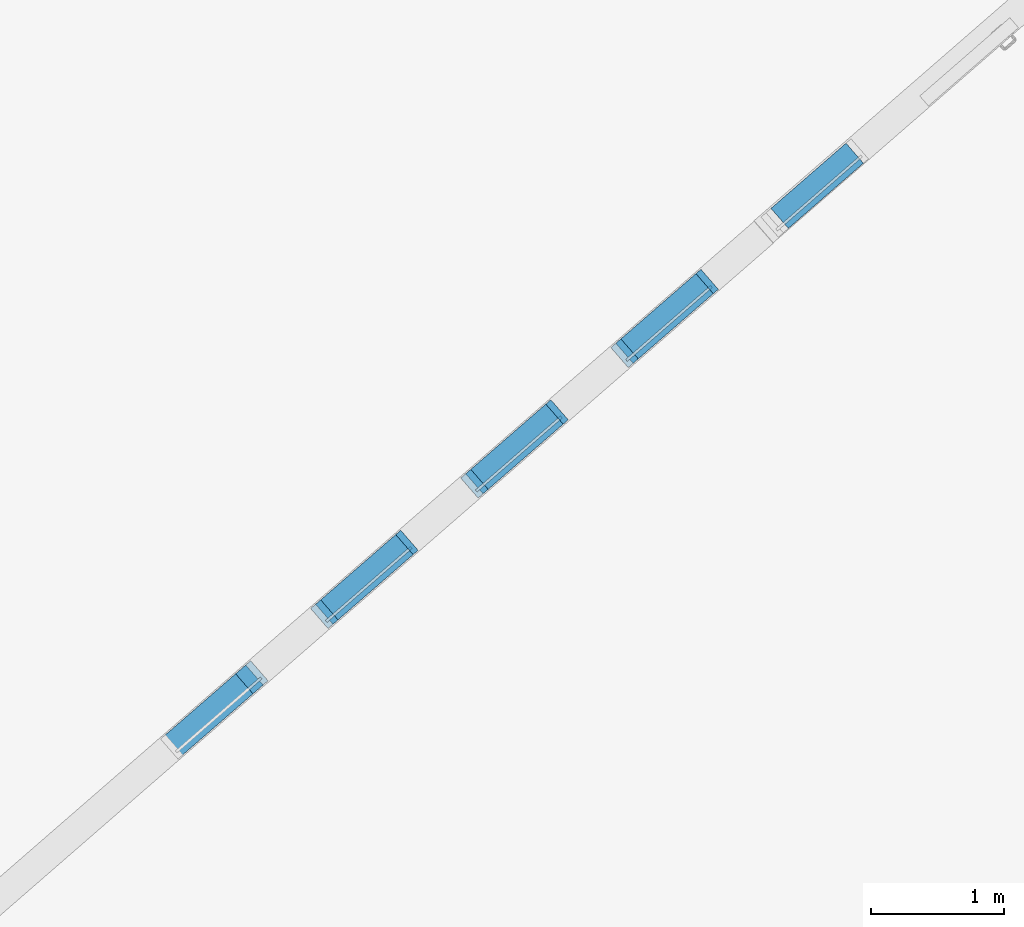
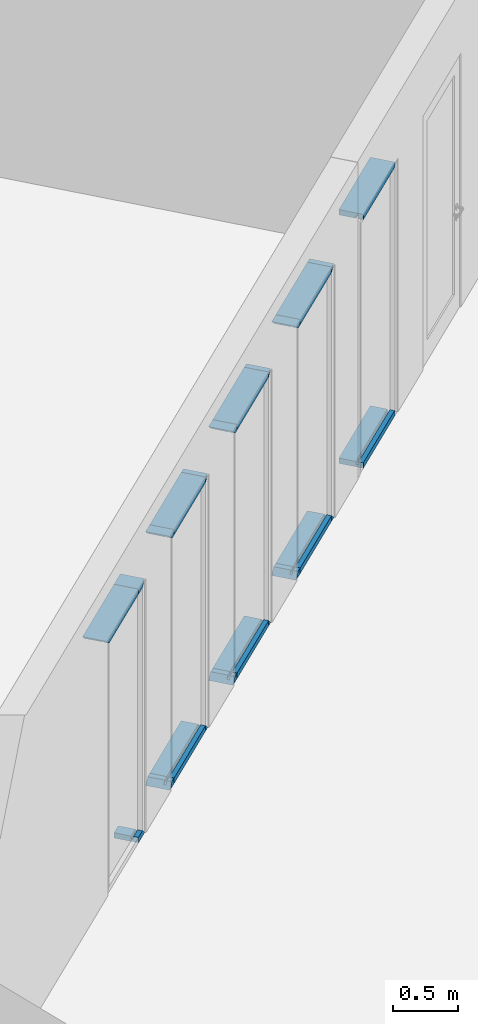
# One storey, part 14 of 124: 23 discrete accessories, 5 elements without a shape of their own.
"""IFC2X3 building model written with IfcOpenShell, lengths in millimetres."""

from ifc_helpers import new_model, entity, si_unit, converted_unit, derived_unit, money_unit, direction, frame, origin_with_axes, place, context, subcontext, project, spatial, polyline, outline, extrude, clip, halfspace, material, material_list, type_object, element, aggregate, save


model = new_model("IFC2X3")

# Units and contexts
model_context = context("Model", 3, precision=1e-05, world=origin_with_axes(), true_north=direction((0.0, 1.0)))
body_context = subcontext(model_context, "Body", "Model", "MODEL_VIEW")
ifc_project = project(units=[si_unit("LENGTHUNIT", "METRE", prefix="MILLI"), si_unit("AREAUNIT", "SQUARE_METRE"), si_unit("VOLUMEUNIT", "CUBIC_METRE"), converted_unit("PLANEANGLEUNIT", "DEGREE", entity("IfcPlaneAngleMeasure", 0.0174532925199), si_unit("PLANEANGLEUNIT", "RADIAN"), dimensions=[0, 0, 0, 0, 0, 0, 0]), si_unit("SOLIDANGLEUNIT", "STERADIAN"), money_unit("EUR"), converted_unit("TIMEUNIT", "Year", entity("IfcTimeMeasure", 31556926.0), si_unit("TIMEUNIT", "SECOND"), dimensions=[0, 0, 1, 0, 0, 0, 0]), si_unit("MASSUNIT", "GRAM", prefix="KILO"), si_unit("THERMODYNAMICTEMPERATUREUNIT", "DEGREE_CELSIUS"), si_unit("LUMINOUSINTENSITYUNIT", "LUMEN"), si_unit("ENERGYUNIT", "JOULE", prefix="MEGA"), derived_unit("THERMALCONDUCTANCEUNIT", [(si_unit("POWERUNIT", "WATT"), 1), (si_unit("LENGTHUNIT", "METRE"), -1), (si_unit("THERMODYNAMICTEMPERATUREUNIT", "KELVIN"), -1)]), derived_unit("SPECIFICHEATCAPACITYUNIT", [(si_unit("ENERGYUNIT", "JOULE"), 1), (si_unit("MASSUNIT", "GRAM", prefix="KILO"), -1), (si_unit("THERMODYNAMICTEMPERATUREUNIT", "KELVIN"), -1)]), derived_unit("MASSDENSITYUNIT", [(si_unit("MASSUNIT", "GRAM", prefix="KILO"), 1), (si_unit("VOLUMEUNIT", "CUBIC_METRE"), -1)])], contexts=[model_context])

# Site, building, storey
site_placement = place(None, origin_with_axes())
site = spatial("IfcSite", under=ifc_project, at=site_placement, Name="Site", CompositionType="ELEMENT")
building_placement = place(site_placement, origin_with_axes())
building = spatial("IfcBuilding", under=site, at=building_placement, Name="Building", CompositionType="ELEMENT")
storey_placement = place(building_placement, frame((0.0, 0.0, -1615.0), z_axis=(0.0, 0.0, 1.0), x_axis=(1.0, 0.0, 0.0)))
storey = spatial("IfcBuildingStorey", under=building, at=storey_placement, Name="0  korrus", CompositionType="ELEMENT", Elevation=-1615.0)

# Curtain wall, discrete accessories
curtain_wall_type = type_object("IfcCurtainWallType", Name="KS-07", PredefinedType="NOTDEFINED")
curtain_wall_1_placement = place(storey_placement, frame((145489.197566, 87628.0086428, -0.000131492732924), z_axis=(0.0, 0.0, 1.0), x_axis=(1.0, 0.0, 0.0)))
curtain_wall_1 = element("IfcCurtainWall", 1, at=curtain_wall_1_placement, inside=storey, type_object=curtain_wall_type, Name="Klaas-sein")
ifc_material = material(Name="Aluminium MUST")
ifc_material_list = material_list([ifc_material, ifc_material, ifc_material])
discrete_accessory_type = type_object("IfcDiscreteAccessoryType", Name="50 x 200")
discrete_accessory_1_placement = place(curtain_wall_1_placement, frame((150.941908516, 131.211799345, 2400.00001788), z_axis=(-0.754709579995, -0.656059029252, 0.0), x_axis=(0.0, 0.0, -1.0)))
discrete_accessory_1 = element("IfcDiscreteAccessory", 2, at=discrete_accessory_1_placement, type_object=discrete_accessory_type, material=ifc_material_list, Name="KS-07 profiil", context=body_context, shape_type="Clipping", body=[
    clip(extrude(outline(polyline([(9.99999999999, 25.0), (-9.99999999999, 25.0), (-10.0, 0.0), (10.0, 0.0), (9.99999999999, 25.0)])), frame((0.0, 0.0, 0.0), z_axis=(0.0, 0.0, 1.0), x_axis=(0.0, -1.0, 0.0)), (0.0, 0.0, 1.0), 750.0), halfspace(frame((375.0, 0.0, 375.0), z_axis=(-0.707106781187, 0.0, -0.707106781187), x_axis=(0.0, 1.0, 0.0)), True)),
    clip(extrude(outline(polyline([(150.0, 50.0), (10.0, 50.0), (10.0, 0.0), (150.0, 0.0), (150.0, 50.0)])), frame((0.0, 0.0, 0.0), z_axis=(0.0, 0.0, 1.0), x_axis=(0.0, -1.0, 0.0)), (0.0, 0.0, 1.0), 750.0), halfspace(frame((375.0, 0.0, 375.0), z_axis=(-0.707106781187, 0.0, -0.707106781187), x_axis=(0.0, 1.0, 0.0)), True)),
    clip(extrude(outline(polyline([(-50.0, 0.0), (-10.0, 0.0), (-10.0, 50.0), (-50.0, 50.0), (-50.0, 0.0)])), frame((0.0, 0.0, 0.0), z_axis=(0.0, 0.0, 1.0), x_axis=(0.0, -1.0, 0.0)), (0.0, 0.0, 1.0), 750.0), halfspace(frame((375.0, 0.0, 375.0), z_axis=(-0.707106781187, 0.0, -0.707106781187), x_axis=(0.0, 1.0, 0.0)), True)),
])
discrete_accessory_2_placement = place(curtain_wall_1_placement, frame((150.941908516, 131.211799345, 0.0), z_axis=(0.754709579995, 0.656059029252, 0.0), x_axis=(0.0, 0.0, 1.0)))
discrete_accessory_2 = element("IfcDiscreteAccessory", 3, at=discrete_accessory_2_placement, type_object=discrete_accessory_type, material=ifc_material_list, Name="KS-07 profiil", context=body_context, shape_type="Clipping", body=[
    clip(extrude(outline(polyline([(-10.0, -25.0), (9.99999999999, -25.0), (9.99999999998, 0.0), (-10.0, 0.0), (-10.0, -25.0)])), frame((0.0, 0.0, 0.0), z_axis=(0.0, 0.0, 1.0), x_axis=(0.0, 1.0, 0.0)), (0.0, 0.0, 1.0), 150.000029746), halfspace(frame((75.000014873, 0.0, 75.000014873), z_axis=(-0.707106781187, 0.0, -0.707106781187), x_axis=(0.0, 1.0, 0.0)), True)),
    clip(extrude(outline(polyline([(-150.0, -50.0), (-10.0, -50.0), (-10.0, 0.0), (-150.0, 0.0), (-150.0, -50.0)])), frame((0.0, 0.0, 0.0), z_axis=(0.0, 0.0, 1.0), x_axis=(0.0, 1.0, 0.0)), (0.0, 0.0, 1.0), 150.000029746), halfspace(frame((75.000014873, 0.0, 75.000014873), z_axis=(-0.707106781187, 0.0, -0.707106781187), x_axis=(0.0, 1.0, 0.0)), True)),
    clip(extrude(outline(polyline([(50.0, 0.0), (9.99999999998, 0.0), (9.99999999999, -50.0), (50.0, -50.0), (50.0, 0.0)])), frame((0.0, 0.0, 0.0), z_axis=(0.0, 0.0, 1.0), x_axis=(0.0, 1.0, 0.0)), (0.0, 0.0, 1.0), 150.000029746), halfspace(frame((75.000014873, 0.0, 75.000014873), z_axis=(-0.707106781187, 0.0, -0.707106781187), x_axis=(0.0, 1.0, 0.0)), True)),
])
discrete_accessory_3_placement = place(curtain_wall_1_placement, frame((264.148367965, 229.620673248, 2400.00001788), z_axis=(-0.754709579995, -0.656059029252, 0.0), x_axis=(0.0, 0.0, -1.0)))
discrete_accessory_3 = element("IfcDiscreteAccessory", 4, at=discrete_accessory_3_placement, type_object=discrete_accessory_type, material=ifc_material_list, Name="KS-07 profiil", context=body_context, shape_type="Clipping", body=[
    clip(extrude(outline(polyline([(9.99999999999, 25.0), (-10.0, 25.0), (-10.0, 0.0), (9.99999999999, 0.0), (9.99999999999, 25.0)])), frame((0.0, 0.0, 0.0), z_axis=(0.0, 0.0, 1.0), x_axis=(0.0, -1.0, 0.0)), (0.0, 0.0, 1.0), 150.000029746), halfspace(frame((0.0, 0.0, 0.0), z_axis=(-0.707106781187, 0.0, 0.707106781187), x_axis=(0.0, -1.0, 0.0)), True)),
    clip(extrude(outline(polyline([(150.0, 50.0), (9.99999999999, 50.0), (9.99999999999, 0.0), (150.0, 0.0), (150.0, 50.0)])), frame((0.0, 0.0, 0.0), z_axis=(0.0, 0.0, 1.0), x_axis=(0.0, -1.0, 0.0)), (0.0, 0.0, 1.0), 150.000029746), halfspace(frame((0.0, 0.0, 0.0), z_axis=(-0.707106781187, 0.0, 0.707106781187), x_axis=(0.0, -1.0, 0.0)), True)),
    clip(extrude(outline(polyline([(-50.0, 0.0), (-10.0, 0.0), (-10.0, 50.0), (-50.0, 50.0), (-50.0, 0.0)])), frame((0.0, 0.0, 0.0), z_axis=(0.0, 0.0, 1.0), x_axis=(0.0, -1.0, 0.0)), (0.0, 0.0, 1.0), 150.000029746), halfspace(frame((0.0, 0.0, 0.0), z_axis=(-0.707106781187, 0.0, 0.707106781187), x_axis=(0.0, -1.0, 0.0)), True)),
])
aggregate(curtain_wall_1, [discrete_accessory_1, discrete_accessory_2, discrete_accessory_3])

curtain_wall_2_placement = place(storey_placement, frame((146555.224842, 88554.6920151, -6.3855272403e-05), z_axis=(0.0, 0.0, 1.0), x_axis=(1.0, 0.0, 0.0)))
curtain_wall_2 = element("IfcCurtainWall", 5, at=curtain_wall_2_placement, inside=storey, type_object=curtain_wall_type, Name="Klaas-sein")
discrete_accessory_4_placement = place(curtain_wall_2_placement, frame((330.185462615, 287.025843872, 2400.00001788), z_axis=(-0.754709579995, -0.656059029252, 0.0), x_axis=(0.0, 0.0, -1.0)))
discrete_accessory_4 = element("IfcDiscreteAccessory", 6, at=discrete_accessory_4_placement, type_object=discrete_accessory_type, material=ifc_material_list, Name="KS-07 profiil", context=body_context, shape_type="Clipping", body=[
    clip(extrude(outline(polyline([(10.0, 25.0), (-10.0, 25.0), (-10.0, 0.0), (10.0, 0.0), (10.0, 25.0)])), frame((0.0, 0.0, 0.0), z_axis=(0.0, 0.0, 1.0), x_axis=(0.0, -1.0, 0.0)), (0.0, 0.0, 1.0), 50.0000298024), halfspace(frame((0.0, 0.0, 0.0), z_axis=(-0.707106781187, 0.0, 0.707106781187), x_axis=(0.0, -1.0, 0.0)), True)),
    clip(extrude(outline(polyline([(150.0, 50.0), (10.0, 50.0), (10.0, 0.0), (150.0, 0.0), (150.0, 50.0)])), frame((0.0, 0.0, 0.0), z_axis=(0.0, 0.0, 1.0), x_axis=(0.0, -1.0, 0.0)), (0.0, 0.0, 1.0), 50.0000298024), halfspace(frame((0.0, 0.0, 0.0), z_axis=(-0.707106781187, 0.0, 0.707106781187), x_axis=(0.0, -1.0, 0.0)), True)),
    clip(extrude(outline(polyline([(-50.0, 0.0), (-10.0, 0.0), (-10.0, 50.0), (-50.0, 50.0), (-50.0, 0.0)])), frame((0.0, 0.0, 0.0), z_axis=(0.0, 0.0, 1.0), x_axis=(0.0, -1.0, 0.0)), (0.0, 0.0, 1.0), 50.0000298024), halfspace(frame((0.0, 0.0, 0.0), z_axis=(-0.707106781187, 0.0, 0.707106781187), x_axis=(0.0, -1.0, 0.0)), True)),
])
discrete_accessory_5_placement = place(curtain_wall_2_placement, frame((292.449961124, 254.222872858, 0.0), z_axis=(0.754709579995, 0.656059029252, 0.0), x_axis=(0.0, 0.0, 1.0)))
discrete_accessory_5 = element("IfcDiscreteAccessory", 7, at=discrete_accessory_5_placement, type_object=discrete_accessory_type, material=ifc_material_list, Name="KS-07 profiil", context=body_context, shape_type="Clipping", body=[
    clip(extrude(outline(polyline([(-10.0, -25.0), (9.99999999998, -25.0), (10.0, 0.0), (-10.0, 0.0), (-10.0, -25.0)])), frame((0.0, 0.0, 0.0), z_axis=(0.0, 0.0, 1.0), x_axis=(0.0, 1.0, 0.0)), (0.0, 0.0, 1.0), 50.0000298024), halfspace(frame((25.0000149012, 0.0, 25.0000149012), z_axis=(-0.707106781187, 0.0, -0.707106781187), x_axis=(0.0, 1.0, 0.0)), True)),
    clip(extrude(outline(polyline([(-150.0, -50.0), (-10.0, -50.0), (-10.0, 0.0), (-150.0, 0.0), (-150.0, -50.0)])), frame((0.0, 0.0, 0.0), z_axis=(0.0, 0.0, 1.0), x_axis=(0.0, 1.0, 0.0)), (0.0, 0.0, 1.0), 50.0000298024), halfspace(frame((25.0000149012, 0.0, 25.0000149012), z_axis=(-0.707106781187, 0.0, -0.707106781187), x_axis=(0.0, 1.0, 0.0)), True)),
    clip(extrude(outline(polyline([(50.0, 0.0), (10.0, 0.0), (9.99999999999, -50.0), (50.0, -50.0), (50.0, 0.0)])), frame((0.0, 0.0, 0.0), z_axis=(0.0, 0.0, 1.0), x_axis=(0.0, 1.0, 0.0)), (0.0, 0.0, 1.0), 50.0000298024), halfspace(frame((25.0000149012, 0.0, 25.0000149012), z_axis=(-0.707106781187, 0.0, -0.707106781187), x_axis=(0.0, 1.0, 0.0)), True)),
])
discrete_accessory_6_placement = place(curtain_wall_2_placement, frame((292.449961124, 254.222872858, 2400.00001788), z_axis=(-0.754709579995, -0.656059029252, 0.0), x_axis=(0.0, 0.0, -1.0)))
discrete_accessory_6 = element("IfcDiscreteAccessory", 8, at=discrete_accessory_6_placement, type_object=discrete_accessory_type, material=ifc_material_list, Name="KS-07 profiil", context=body_context, shape_type="SweptSolid", body=[
    extrude(outline(polyline([(9.99999999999, 25.0), (-10.0, 25.0), (-10.0, 0.0), (9.99999999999, 0.0), (9.99999999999, 25.0)])), frame((0.0, 0.0, 0.0), z_axis=(0.0, 0.0, 1.0), x_axis=(0.0, -1.0, 0.0)), (0.0, 0.0, 1.0), 750.0),
    extrude(outline(polyline([(150.0, 50.0), (9.99999999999, 50.0), (9.99999999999, 0.0), (150.0, 0.0), (150.0, 50.0)])), frame((0.0, 0.0, 0.0), z_axis=(0.0, 0.0, 1.0), x_axis=(0.0, -1.0, 0.0)), (0.0, 0.0, 1.0), 750.0),
    extrude(outline(polyline([(-50.0, 0.0), (-10.0, 0.0), (-10.0, 50.0), (-50.0, 50.0), (-50.0, 0.0)])), frame((0.0, 0.0, 0.0), z_axis=(0.0, 0.0, 1.0), x_axis=(0.0, -1.0, 0.0)), (0.0, 0.0, 1.0), 750.0),
])
discrete_accessory_7_placement = place(curtain_wall_2_placement, frame((-273.582223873, -237.821399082, 0.0), z_axis=(0.754709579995, 0.656059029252, 0.0), x_axis=(0.0, 0.0, 1.0)))
discrete_accessory_7 = element("IfcDiscreteAccessory", 9, at=discrete_accessory_7_placement, type_object=discrete_accessory_type, material=ifc_material_list, Name="KS-07 profiil", context=body_context, shape_type="SweptSolid", body=[
    extrude(outline(polyline([(-10.0, -25.0), (10.0, -25.0), (10.0, 0.0), (-10.0, 0.0), (-10.0, -25.0)])), frame((0.0, 0.0, 0.0), z_axis=(0.0, 0.0, 1.0), x_axis=(0.0, 1.0, 0.0)), (0.0, 0.0, 1.0), 750.0),
    extrude(outline(polyline([(-150.0, -50.0), (-10.0, -50.0), (-10.0, 0.0), (-150.0, 0.0), (-150.0, -50.0)])), frame((0.0, 0.0, 0.0), z_axis=(0.0, 0.0, 1.0), x_axis=(0.0, 1.0, 0.0)), (0.0, 0.0, 1.0), 750.0),
    extrude(outline(polyline([(50.0, 0.0), (10.0, 0.0), (10.0, -50.0), (50.0, -50.0), (50.0, 0.0)])), frame((0.0, 0.0, 0.0), z_axis=(0.0, 0.0, 1.0), x_axis=(0.0, 1.0, 0.0)), (0.0, 0.0, 1.0), 750.0),
])
discrete_accessory_8_placement = place(curtain_wall_2_placement, frame((-273.582223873, -237.821399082, 2400.00001788), z_axis=(-0.754709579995, -0.656059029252, 0.0), x_axis=(0.0, 0.0, -1.0)))
discrete_accessory_8 = element("IfcDiscreteAccessory", 10, at=discrete_accessory_8_placement, type_object=discrete_accessory_type, material=ifc_material_list, Name="KS-07 profiil", context=body_context, shape_type="Clipping", body=[
    clip(extrude(outline(polyline([(9.99999999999, 25.0), (-10.0, 25.0), (-10.0, 0.0), (9.99999999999, 0.0), (9.99999999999, 25.0)])), frame((0.0, 0.0, 0.0), z_axis=(0.0, 0.0, 1.0), x_axis=(0.0, -1.0, 0.0)), (0.0, 0.0, 1.0), 100.000023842), halfspace(frame((50.0000119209, 0.0, 50.0000119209), z_axis=(-0.707106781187, 0.0, -0.707106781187), x_axis=(0.0, 1.0, 0.0)), True)),
    clip(extrude(outline(polyline([(150.0, 50.0), (9.99999999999, 50.0), (9.99999999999, 0.0), (150.0, 0.0), (150.0, 50.0)])), frame((0.0, 0.0, 0.0), z_axis=(0.0, 0.0, 1.0), x_axis=(0.0, -1.0, 0.0)), (0.0, 0.0, 1.0), 100.000023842), halfspace(frame((50.0000119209, 0.0, 50.0000119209), z_axis=(-0.707106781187, 0.0, -0.707106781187), x_axis=(0.0, 1.0, 0.0)), True)),
    clip(extrude(outline(polyline([(-50.0, 0.0), (-10.0, 0.0), (-10.0, 50.0), (-50.0, 50.0), (-50.0, 0.0)])), frame((0.0, 0.0, 0.0), z_axis=(0.0, 0.0, 1.0), x_axis=(0.0, -1.0, 0.0)), (0.0, 0.0, 1.0), 100.000023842), halfspace(frame((50.0000119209, 0.0, 50.0000119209), z_axis=(-0.707106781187, 0.0, -0.707106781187), x_axis=(0.0, 1.0, 0.0)), True)),
])
discrete_accessory_9_placement = place(curtain_wall_2_placement, frame((-349.053199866, -303.427317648, 0.0), z_axis=(0.754709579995, 0.656059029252, 0.0), x_axis=(0.0, 0.0, 1.0)))
discrete_accessory_9 = element("IfcDiscreteAccessory", 11, at=discrete_accessory_9_placement, type_object=discrete_accessory_type, material=ifc_material_list, Name="KS-07 profiil", context=body_context, shape_type="Clipping", body=[
    clip(extrude(outline(polyline([(-10.0, -25.0), (9.99999999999, -25.0), (9.99999999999, 0.0), (-10.0, 0.0), (-10.0, -25.0)])), frame((0.0, 0.0, 0.0), z_axis=(0.0, 0.0, 1.0), x_axis=(0.0, 1.0, 0.0)), (0.0, 0.0, 1.0), 100.000023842), halfspace(frame((0.0, 0.0, 0.0), z_axis=(-0.707106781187, 0.0, 0.707106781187), x_axis=(0.0, -1.0, 0.0)), True)),
    clip(extrude(outline(polyline([(-150.0, -50.0), (-10.0, -50.0), (-10.0, 0.0), (-150.0, 0.0), (-150.0, -50.0)])), frame((0.0, 0.0, 0.0), z_axis=(0.0, 0.0, 1.0), x_axis=(0.0, 1.0, 0.0)), (0.0, 0.0, 1.0), 100.000023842), halfspace(frame((0.0, 0.0, 0.0), z_axis=(-0.707106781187, 0.0, 0.707106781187), x_axis=(0.0, -1.0, 0.0)), True)),
    clip(extrude(outline(polyline([(50.0, 0.0), (9.99999999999, 0.0), (9.99999999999, -50.0), (50.0, -50.0), (50.0, 0.0)])), frame((0.0, 0.0, 0.0), z_axis=(0.0, 0.0, 1.0), x_axis=(0.0, 1.0, 0.0)), (0.0, 0.0, 1.0), 100.000023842), halfspace(frame((0.0, 0.0, 0.0), z_axis=(-0.707106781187, 0.0, 0.707106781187), x_axis=(0.0, -1.0, 0.0)), True)),
])
aggregate(curtain_wall_2, [discrete_accessory_4, discrete_accessory_5, discrete_accessory_6, discrete_accessory_7, discrete_accessory_8, discrete_accessory_9])

curtain_wall_3_placement = place(storey_placement, frame((149951.417943, 91506.9576387, 0.0), z_axis=(0.0, 0.0, 1.0), x_axis=(1.0, 0.0, 0.0)))
curtain_wall_3 = element("IfcCurtainWall", 12, at=curtain_wall_3_placement, inside=storey, type_object=curtain_wall_type, Name="Klaas-sein")
discrete_accessory_10_placement = place(curtain_wall_3_placement, frame((292.449961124, 254.222872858, 2400.00001788), z_axis=(-0.754709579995, -0.656059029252, 0.0), x_axis=(0.0, 0.0, -1.0)))
discrete_accessory_10 = element("IfcDiscreteAccessory", 13, at=discrete_accessory_10_placement, type_object=discrete_accessory_type, material=ifc_material_list, Name="KS-07 profiil", context=body_context, shape_type="SweptSolid", body=[
    extrude(outline(polyline([(10.0, 25.0), (-10.0, 25.0), (-10.0, 0.0), (10.0, 0.0), (10.0, 25.0)])), frame((0.0, 0.0, 0.0), z_axis=(0.0, 0.0, 1.0), x_axis=(0.0, -1.0, 0.0)), (0.0, 0.0, 1.0), 750.0),
    extrude(outline(polyline([(150.0, 50.0), (10.0, 50.0), (10.0, 0.0), (150.0, 0.0), (150.0, 50.0)])), frame((0.0, 0.0, 0.0), z_axis=(0.0, 0.0, 1.0), x_axis=(0.0, -1.0, 0.0)), (0.0, 0.0, 1.0), 750.0),
    extrude(outline(polyline([(-50.0, 0.0), (-10.0, 0.0), (-10.0, 50.0), (-50.0, 50.0), (-50.0, 0.0)])), frame((0.0, 0.0, 0.0), z_axis=(0.0, 0.0, 1.0), x_axis=(0.0, -1.0, 0.0)), (0.0, 0.0, 1.0), 750.0),
])
discrete_accessory_11_placement = place(curtain_wall_3_placement, frame((-273.582223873, -237.821399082, 0.0), z_axis=(0.754709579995, 0.656059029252, 0.0), x_axis=(0.0, 0.0, 1.0)))
discrete_accessory_11 = element("IfcDiscreteAccessory", 14, at=discrete_accessory_11_placement, type_object=discrete_accessory_type, material=ifc_material_list, Name="KS-07 profiil", context=body_context, shape_type="SweptSolid", body=[
    extrude(outline(polyline([(-10.0, -25.0), (9.99999999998, -25.0), (9.99999999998, 0.0), (-10.0, 0.0), (-10.0, -25.0)])), frame((0.0, 0.0, 0.0), z_axis=(0.0, 0.0, 1.0), x_axis=(0.0, 1.0, 0.0)), (0.0, 0.0, 1.0), 750.0),
    extrude(outline(polyline([(-150.0, -50.0), (-10.0, -50.0), (-10.0, 0.0), (-150.0, 0.0), (-150.0, -50.0)])), frame((0.0, 0.0, 0.0), z_axis=(0.0, 0.0, 1.0), x_axis=(0.0, 1.0, 0.0)), (0.0, 0.0, 1.0), 750.0),
    extrude(outline(polyline([(50.0, 0.0), (9.99999999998, 0.0), (9.99999999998, -50.0), (50.0, -50.0), (50.0, 0.0)])), frame((0.0, 0.0, 0.0), z_axis=(0.0, 0.0, 1.0), x_axis=(0.0, 1.0, 0.0)), (0.0, 0.0, 1.0), 750.0),
])
aggregate(curtain_wall_3, [discrete_accessory_10, discrete_accessory_11])

curtain_wall_4_placement = place(storey_placement, frame((148819.353582, 90522.8691025, 0.0), z_axis=(0.0, 0.0, 1.0), x_axis=(1.0, 0.0, 0.0)))
curtain_wall_4 = element("IfcCurtainWall", 15, at=curtain_wall_4_placement, inside=storey, type_object=curtain_wall_type, Name="Klaas-sein")
discrete_accessory_12_placement = place(curtain_wall_4_placement, frame((330.185462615, 287.025843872, 2400.00001788), z_axis=(-0.754709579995, -0.656059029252, 0.0), x_axis=(0.0, 0.0, -1.0)))
discrete_accessory_12 = element("IfcDiscreteAccessory", 16, at=discrete_accessory_12_placement, type_object=discrete_accessory_type, material=ifc_material_list, Name="KS-07 profiil", context=body_context, shape_type="Clipping", body=[
    clip(extrude(outline(polyline([(9.99999999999, 25.0), (-10.0, 25.0), (-10.0, 0.0), (9.99999999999, 0.0), (9.99999999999, 25.0)])), frame((0.0, 0.0, 0.0), z_axis=(0.0, 0.0, 1.0), x_axis=(0.0, -1.0, 0.0)), (0.0, 0.0, 1.0), 50.0000298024), halfspace(frame((0.0, 0.0, 0.0), z_axis=(-0.707106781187, 0.0, 0.707106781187), x_axis=(0.0, -1.0, 0.0)), True)),
    clip(extrude(outline(polyline([(150.0, 50.0), (9.99999999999, 50.0), (9.99999999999, 0.0), (150.0, 0.0), (150.0, 50.0)])), frame((0.0, 0.0, 0.0), z_axis=(0.0, 0.0, 1.0), x_axis=(0.0, -1.0, 0.0)), (0.0, 0.0, 1.0), 50.0000298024), halfspace(frame((0.0, 0.0, 0.0), z_axis=(-0.707106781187, 0.0, 0.707106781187), x_axis=(0.0, -1.0, 0.0)), True)),
    clip(extrude(outline(polyline([(-50.0, 0.0), (-10.0, 0.0), (-10.0, 50.0), (-50.0, 50.0), (-50.0, 0.0)])), frame((0.0, 0.0, 0.0), z_axis=(0.0, 0.0, 1.0), x_axis=(0.0, -1.0, 0.0)), (0.0, 0.0, 1.0), 50.0000298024), halfspace(frame((0.0, 0.0, 0.0), z_axis=(-0.707106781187, 0.0, 0.707106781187), x_axis=(0.0, -1.0, 0.0)), True)),
])
discrete_accessory_13_placement = place(curtain_wall_4_placement, frame((292.449961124, 254.222872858, 0.0), z_axis=(0.754709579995, 0.656059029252, 0.0), x_axis=(0.0, 0.0, 1.0)))
discrete_accessory_13 = element("IfcDiscreteAccessory", 17, at=discrete_accessory_13_placement, type_object=discrete_accessory_type, material=ifc_material_list, Name="KS-07 profiil", context=body_context, shape_type="Clipping", body=[
    clip(extrude(outline(polyline([(-10.0, -25.0), (10.0, -25.0), (9.99999999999, 0.0), (-10.0, 0.0), (-10.0, -25.0)])), frame((0.0, 0.0, 0.0), z_axis=(0.0, 0.0, 1.0), x_axis=(0.0, 1.0, 0.0)), (0.0, 0.0, 1.0), 50.0000298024), halfspace(frame((25.0000149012, 0.0, 25.0000149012), z_axis=(-0.707106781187, 0.0, -0.707106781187), x_axis=(0.0, 1.0, 0.0)), True)),
    clip(extrude(outline(polyline([(-150.0, -50.0), (-10.0, -50.0), (-10.0, 0.0), (-150.0, 0.0), (-150.0, -50.0)])), frame((0.0, 0.0, 0.0), z_axis=(0.0, 0.0, 1.0), x_axis=(0.0, 1.0, 0.0)), (0.0, 0.0, 1.0), 50.0000298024), halfspace(frame((25.0000149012, 0.0, 25.0000149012), z_axis=(-0.707106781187, 0.0, -0.707106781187), x_axis=(0.0, 1.0, 0.0)), True)),
    clip(extrude(outline(polyline([(50.0, 0.0), (9.99999999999, 0.0), (9.99999999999, -50.0), (50.0, -50.0), (50.0, 0.0)])), frame((0.0, 0.0, 0.0), z_axis=(0.0, 0.0, 1.0), x_axis=(0.0, 1.0, 0.0)), (0.0, 0.0, 1.0), 50.0000298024), halfspace(frame((25.0000149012, 0.0, 25.0000149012), z_axis=(-0.707106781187, 0.0, -0.707106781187), x_axis=(0.0, 1.0, 0.0)), True)),
])
discrete_accessory_14_placement = place(curtain_wall_4_placement, frame((292.449961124, 254.222872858, 2400.00001788), z_axis=(-0.754709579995, -0.656059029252, 0.0), x_axis=(0.0, 0.0, -1.0)))
discrete_accessory_14 = element("IfcDiscreteAccessory", 18, at=discrete_accessory_14_placement, type_object=discrete_accessory_type, material=ifc_material_list, Name="KS-07 profiil", context=body_context, shape_type="SweptSolid", body=[
    extrude(outline(polyline([(10.0, 25.0), (-10.0, 25.0), (-10.0, 0.0), (10.0, 0.0), (10.0, 25.0)])), frame((0.0, 0.0, 0.0), z_axis=(0.0, 0.0, 1.0), x_axis=(0.0, -1.0, 0.0)), (0.0, 0.0, 1.0), 750.0),
    extrude(outline(polyline([(150.0, 50.0), (10.0, 50.0), (10.0, 0.0), (150.0, 0.0), (150.0, 50.0)])), frame((0.0, 0.0, 0.0), z_axis=(0.0, 0.0, 1.0), x_axis=(0.0, -1.0, 0.0)), (0.0, 0.0, 1.0), 750.0),
    extrude(outline(polyline([(-50.0, 0.0), (-10.0, 0.0), (-10.0, 50.0), (-50.0, 50.0), (-50.0, 0.0)])), frame((0.0, 0.0, 0.0), z_axis=(0.0, 0.0, 1.0), x_axis=(0.0, -1.0, 0.0)), (0.0, 0.0, 1.0), 750.0),
])
discrete_accessory_15_placement = place(curtain_wall_4_placement, frame((-273.582223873, -237.821399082, 0.0), z_axis=(0.754709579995, 0.656059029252, 0.0), x_axis=(0.0, 0.0, 1.0)))
discrete_accessory_15 = element("IfcDiscreteAccessory", 19, at=discrete_accessory_15_placement, type_object=discrete_accessory_type, material=ifc_material_list, Name="KS-07 profiil", context=body_context, shape_type="SweptSolid", body=[
    extrude(outline(polyline([(-10.0, -25.0), (9.99999999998, -25.0), (9.99999999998, 0.0), (-10.0, 0.0), (-10.0, -25.0)])), frame((0.0, 0.0, 0.0), z_axis=(0.0, 0.0, 1.0), x_axis=(0.0, 1.0, 0.0)), (0.0, 0.0, 1.0), 750.0),
    extrude(outline(polyline([(-150.0, -50.0), (-10.0, -50.0), (-10.0, 0.0), (-150.0, 0.0), (-150.0, -50.0)])), frame((0.0, 0.0, 0.0), z_axis=(0.0, 0.0, 1.0), x_axis=(0.0, 1.0, 0.0)), (0.0, 0.0, 1.0), 750.0),
    extrude(outline(polyline([(50.0, 0.0), (9.99999999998, 0.0), (9.99999999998, -50.0), (50.0, -50.0), (50.0, 0.0)])), frame((0.0, 0.0, 0.0), z_axis=(0.0, 0.0, 1.0), x_axis=(0.0, 1.0, 0.0)), (0.0, 0.0, 1.0), 750.0),
])
discrete_accessory_16_placement = place(curtain_wall_4_placement, frame((-273.582223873, -237.821399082, 2400.00001788), z_axis=(-0.754709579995, -0.656059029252, 0.0), x_axis=(0.0, 0.0, -1.0)))
discrete_accessory_16 = element("IfcDiscreteAccessory", 20, at=discrete_accessory_16_placement, type_object=discrete_accessory_type, material=ifc_material_list, Name="KS-07 profiil", context=body_context, shape_type="Clipping", body=[
    clip(extrude(outline(polyline([(9.99999999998, 25.0), (-10.0, 25.0), (-10.0, 0.0), (9.99999999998, 0.0), (9.99999999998, 25.0)])), frame((0.0, 0.0, 0.0), z_axis=(0.0, 0.0, 1.0), x_axis=(0.0, -1.0, 0.0)), (0.0, 0.0, 1.0), 100.000023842), halfspace(frame((50.0000119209, 0.0, 50.0000119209), z_axis=(-0.707106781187, 0.0, -0.707106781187), x_axis=(0.0, 1.0, 0.0)), True)),
    clip(extrude(outline(polyline([(150.0, 50.0), (10.0, 50.0), (9.99999999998, 0.0), (150.0, 0.0), (150.0, 50.0)])), frame((0.0, 0.0, 0.0), z_axis=(0.0, 0.0, 1.0), x_axis=(0.0, -1.0, 0.0)), (0.0, 0.0, 1.0), 100.000023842), halfspace(frame((50.0000119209, 0.0, 50.0000119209), z_axis=(-0.707106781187, 0.0, -0.707106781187), x_axis=(0.0, 1.0, 0.0)), True)),
    clip(extrude(outline(polyline([(-50.0, 0.0), (-10.0, 0.0), (-10.0, 50.0), (-50.0, 50.0), (-50.0, 0.0)])), frame((0.0, 0.0, 0.0), z_axis=(0.0, 0.0, 1.0), x_axis=(0.0, -1.0, 0.0)), (0.0, 0.0, 1.0), 100.000023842), halfspace(frame((50.0000119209, 0.0, 50.0000119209), z_axis=(-0.707106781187, 0.0, -0.707106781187), x_axis=(0.0, 1.0, 0.0)), True)),
])
discrete_accessory_17_placement = place(curtain_wall_4_placement, frame((-349.053199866, -303.427317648, 0.0), z_axis=(0.754709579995, 0.656059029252, 0.0), x_axis=(0.0, 0.0, 1.0)))
discrete_accessory_17 = element("IfcDiscreteAccessory", 21, at=discrete_accessory_17_placement, type_object=discrete_accessory_type, material=ifc_material_list, Name="KS-07 profiil", context=body_context, shape_type="Clipping", body=[
    clip(extrude(outline(polyline([(-10.0, -25.0), (9.99999999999, -25.0), (9.99999999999, 0.0), (-10.0, 0.0), (-10.0, -25.0)])), frame((0.0, 0.0, 0.0), z_axis=(0.0, 0.0, 1.0), x_axis=(0.0, 1.0, 0.0)), (0.0, 0.0, 1.0), 100.000023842), halfspace(frame((0.0, 0.0, 0.0), z_axis=(-0.707106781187, 0.0, 0.707106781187), x_axis=(0.0, -1.0, 0.0)), True)),
    clip(extrude(outline(polyline([(-150.0, -50.0), (-10.0, -50.0), (-10.0, 0.0), (-150.0, 0.0), (-150.0, -50.0)])), frame((0.0, 0.0, 0.0), z_axis=(0.0, 0.0, 1.0), x_axis=(0.0, 1.0, 0.0)), (0.0, 0.0, 1.0), 100.000023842), halfspace(frame((0.0, 0.0, 0.0), z_axis=(-0.707106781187, 0.0, 0.707106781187), x_axis=(0.0, -1.0, 0.0)), True)),
    clip(extrude(outline(polyline([(50.0, 0.0), (9.99999999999, 0.0), (9.99999999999, -50.0), (50.0, -50.0), (50.0, 0.0)])), frame((0.0, 0.0, 0.0), z_axis=(0.0, 0.0, 1.0), x_axis=(0.0, 1.0, 0.0)), (0.0, 0.0, 1.0), 100.000023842), halfspace(frame((0.0, 0.0, 0.0), z_axis=(-0.707106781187, 0.0, 0.707106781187), x_axis=(0.0, -1.0, 0.0)), True)),
])
aggregate(curtain_wall_4, [discrete_accessory_12, discrete_accessory_13, discrete_accessory_14, discrete_accessory_15, discrete_accessory_16, discrete_accessory_17])

curtain_wall_5_placement = place(storey_placement, frame((147687.289181, 89538.7805306, -1.78814105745e-05), z_axis=(0.0, 0.0, 1.0), x_axis=(1.0, 0.0, 0.0)))
curtain_wall_5 = element("IfcCurtainWall", 22, at=curtain_wall_5_placement, inside=storey, type_object=curtain_wall_type, Name="Klaas-sein")
discrete_accessory_18_placement = place(curtain_wall_5_placement, frame((330.185462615, 287.025843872, 2400.00001788), z_axis=(-0.754709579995, -0.656059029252, 0.0), x_axis=(0.0, 0.0, -1.0)))
discrete_accessory_18 = element("IfcDiscreteAccessory", 23, at=discrete_accessory_18_placement, type_object=discrete_accessory_type, material=ifc_material_list, Name="KS-07 profiil", context=body_context, shape_type="Clipping", body=[
    clip(extrude(outline(polyline([(10.0, 25.0), (-10.0, 25.0), (-10.0, 0.0), (10.0, 0.0), (10.0, 25.0)])), frame((0.0, 0.0, 0.0), z_axis=(0.0, 0.0, 1.0), x_axis=(0.0, -1.0, 0.0)), (0.0, 0.0, 1.0), 50.0000298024), halfspace(frame((0.0, 0.0, 0.0), z_axis=(-0.707106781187, 0.0, 0.707106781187), x_axis=(0.0, -1.0, 0.0)), True)),
    clip(extrude(outline(polyline([(150.0, 50.0), (10.0, 50.0), (10.0, 0.0), (150.0, 0.0), (150.0, 50.0)])), frame((0.0, 0.0, 0.0), z_axis=(0.0, 0.0, 1.0), x_axis=(0.0, -1.0, 0.0)), (0.0, 0.0, 1.0), 50.0000298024), halfspace(frame((0.0, 0.0, 0.0), z_axis=(-0.707106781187, 0.0, 0.707106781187), x_axis=(0.0, -1.0, 0.0)), True)),
    clip(extrude(outline(polyline([(-50.0, 0.0), (-10.0, 0.0), (-10.0, 50.0), (-50.0, 50.0), (-50.0, 0.0)])), frame((0.0, 0.0, 0.0), z_axis=(0.0, 0.0, 1.0), x_axis=(0.0, -1.0, 0.0)), (0.0, 0.0, 1.0), 50.0000298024), halfspace(frame((0.0, 0.0, 0.0), z_axis=(-0.707106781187, 0.0, 0.707106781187), x_axis=(0.0, -1.0, 0.0)), True)),
])
discrete_accessory_19_placement = place(curtain_wall_5_placement, frame((292.449961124, 254.222872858, 0.0), z_axis=(0.754709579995, 0.656059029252, 0.0), x_axis=(0.0, 0.0, 1.0)))
discrete_accessory_19 = element("IfcDiscreteAccessory", 24, at=discrete_accessory_19_placement, type_object=discrete_accessory_type, material=ifc_material_list, Name="KS-07 profiil", context=body_context, shape_type="Clipping", body=[
    clip(extrude(outline(polyline([(-10.0, -25.0), (10.0, -25.0), (10.0, 0.0), (-9.99999999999, 0.0), (-10.0, -25.0)])), frame((0.0, 0.0, 0.0), z_axis=(0.0, 0.0, 1.0), x_axis=(0.0, 1.0, 0.0)), (0.0, 0.0, 1.0), 50.0000298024), halfspace(frame((25.0000149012, 0.0, 25.0000149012), z_axis=(-0.707106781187, 0.0, -0.707106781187), x_axis=(0.0, 1.0, 0.0)), True)),
    clip(extrude(outline(polyline([(-150.0, -50.0), (-9.99999999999, -50.0), (-9.99999999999, 0.0), (-150.0, 0.0), (-150.0, -50.0)])), frame((0.0, 0.0, 0.0), z_axis=(0.0, 0.0, 1.0), x_axis=(0.0, 1.0, 0.0)), (0.0, 0.0, 1.0), 50.0000298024), halfspace(frame((25.0000149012, 0.0, 25.0000149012), z_axis=(-0.707106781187, 0.0, -0.707106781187), x_axis=(0.0, 1.0, 0.0)), True)),
    clip(extrude(outline(polyline([(50.0, 0.0), (10.0, 0.0), (10.0, -50.0), (50.0, -50.0), (50.0, 0.0)])), frame((0.0, 0.0, 0.0), z_axis=(0.0, 0.0, 1.0), x_axis=(0.0, 1.0, 0.0)), (0.0, 0.0, 1.0), 50.0000298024), halfspace(frame((25.0000149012, 0.0, 25.0000149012), z_axis=(-0.707106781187, 0.0, -0.707106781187), x_axis=(0.0, 1.0, 0.0)), True)),
])
discrete_accessory_20_placement = place(curtain_wall_5_placement, frame((292.449961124, 254.222872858, 2400.00001788), z_axis=(-0.754709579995, -0.656059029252, 0.0), x_axis=(0.0, 0.0, -1.0)))
discrete_accessory_20 = element("IfcDiscreteAccessory", 25, at=discrete_accessory_20_placement, type_object=discrete_accessory_type, material=ifc_material_list, Name="KS-07 profiil", context=body_context, shape_type="SweptSolid", body=[
    extrude(outline(polyline([(9.99999999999, 25.0), (-9.99999999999, 25.0), (-9.99999999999, 0.0), (9.99999999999, 0.0), (9.99999999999, 25.0)])), frame((0.0, 0.0, 0.0), z_axis=(0.0, 0.0, 1.0), x_axis=(0.0, -1.0, 0.0)), (0.0, 0.0, 1.0), 750.0),
    extrude(outline(polyline([(150.0, 50.0), (9.99999999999, 50.0), (9.99999999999, 0.0), (150.0, 0.0), (150.0, 50.0)])), frame((0.0, 0.0, 0.0), z_axis=(0.0, 0.0, 1.0), x_axis=(0.0, -1.0, 0.0)), (0.0, 0.0, 1.0), 750.0),
    extrude(outline(polyline([(-50.0, 0.0), (-9.99999999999, 0.0), (-9.99999999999, 50.0), (-50.0, 50.0), (-50.0, 0.0)])), frame((0.0, 0.0, 0.0), z_axis=(0.0, 0.0, 1.0), x_axis=(0.0, -1.0, 0.0)), (0.0, 0.0, 1.0), 750.0),
])
discrete_accessory_21_placement = place(curtain_wall_5_placement, frame((-273.582223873, -237.821399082, 0.0), z_axis=(0.754709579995, 0.656059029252, 0.0), x_axis=(0.0, 0.0, 1.0)))
discrete_accessory_21 = element("IfcDiscreteAccessory", 26, at=discrete_accessory_21_placement, type_object=discrete_accessory_type, material=ifc_material_list, Name="KS-07 profiil", context=body_context, shape_type="SweptSolid", body=[
    extrude(outline(polyline([(-10.0, -25.0), (10.0, -25.0), (10.0, 0.0), (-10.0, 0.0), (-10.0, -25.0)])), frame((0.0, 0.0, 0.0), z_axis=(0.0, 0.0, 1.0), x_axis=(0.0, 1.0, 0.0)), (0.0, 0.0, 1.0), 750.0),
    extrude(outline(polyline([(-150.0, -50.0), (-10.0, -50.0), (-10.0, 0.0), (-150.0, 0.0), (-150.0, -50.0)])), frame((0.0, 0.0, 0.0), z_axis=(0.0, 0.0, 1.0), x_axis=(0.0, 1.0, 0.0)), (0.0, 0.0, 1.0), 750.0),
    extrude(outline(polyline([(50.0, 0.0), (10.0, 0.0), (10.0, -50.0), (50.0, -50.0), (50.0, 0.0)])), frame((0.0, 0.0, 0.0), z_axis=(0.0, 0.0, 1.0), x_axis=(0.0, 1.0, 0.0)), (0.0, 0.0, 1.0), 750.0),
])
discrete_accessory_22_placement = place(curtain_wall_5_placement, frame((-273.582223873, -237.821399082, 2400.00001788), z_axis=(-0.754709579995, -0.656059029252, 0.0), x_axis=(0.0, 0.0, -1.0)))
discrete_accessory_22 = element("IfcDiscreteAccessory", 27, at=discrete_accessory_22_placement, type_object=discrete_accessory_type, material=ifc_material_list, Name="KS-07 profiil", context=body_context, shape_type="Clipping", body=[
    clip(extrude(outline(polyline([(9.99999999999, 25.0), (-10.0, 25.0), (-10.0, 0.0), (9.99999999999, 0.0), (9.99999999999, 25.0)])), frame((0.0, 0.0, 0.0), z_axis=(0.0, 0.0, 1.0), x_axis=(0.0, -1.0, 0.0)), (0.0, 0.0, 1.0), 100.000023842), halfspace(frame((50.0000119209, 0.0, 50.0000119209), z_axis=(-0.707106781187, 0.0, -0.707106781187), x_axis=(0.0, 1.0, 0.0)), True)),
    clip(extrude(outline(polyline([(150.0, 50.0), (9.99999999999, 50.0), (9.99999999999, 0.0), (150.0, 0.0), (150.0, 50.0)])), frame((0.0, 0.0, 0.0), z_axis=(0.0, 0.0, 1.0), x_axis=(0.0, -1.0, 0.0)), (0.0, 0.0, 1.0), 100.000023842), halfspace(frame((50.0000119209, 0.0, 50.0000119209), z_axis=(-0.707106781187, 0.0, -0.707106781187), x_axis=(0.0, 1.0, 0.0)), True)),
    clip(extrude(outline(polyline([(-50.0, 0.0), (-10.0, 0.0), (-10.0, 50.0), (-50.0, 50.0), (-50.0, 0.0)])), frame((0.0, 0.0, 0.0), z_axis=(0.0, 0.0, 1.0), x_axis=(0.0, -1.0, 0.0)), (0.0, 0.0, 1.0), 100.000023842), halfspace(frame((50.0000119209, 0.0, 50.0000119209), z_axis=(-0.707106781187, 0.0, -0.707106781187), x_axis=(0.0, 1.0, 0.0)), True)),
])
discrete_accessory_23_placement = place(curtain_wall_5_placement, frame((-349.053199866, -303.427317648, 0.0), z_axis=(0.754709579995, 0.656059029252, 0.0), x_axis=(0.0, 0.0, 1.0)))
discrete_accessory_23 = element("IfcDiscreteAccessory", 28, at=discrete_accessory_23_placement, type_object=discrete_accessory_type, material=ifc_material_list, Name="KS-07 profiil", context=body_context, shape_type="Clipping", body=[
    clip(extrude(outline(polyline([(-10.0, -25.0), (9.99999999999, -25.0), (9.99999999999, 0.0), (-10.0, 0.0), (-10.0, -25.0)])), frame((0.0, 0.0, 0.0), z_axis=(0.0, 0.0, 1.0), x_axis=(0.0, 1.0, 0.0)), (0.0, 0.0, 1.0), 100.000023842), halfspace(frame((0.0, 0.0, 0.0), z_axis=(-0.707106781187, 0.0, 0.707106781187), x_axis=(0.0, -1.0, 0.0)), True)),
    clip(extrude(outline(polyline([(-150.0, -50.0), (-10.0, -50.0), (-10.0, 0.0), (-150.0, 0.0), (-150.0, -50.0)])), frame((0.0, 0.0, 0.0), z_axis=(0.0, 0.0, 1.0), x_axis=(0.0, 1.0, 0.0)), (0.0, 0.0, 1.0), 100.000023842), halfspace(frame((0.0, 0.0, 0.0), z_axis=(-0.707106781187, 0.0, 0.707106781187), x_axis=(0.0, -1.0, 0.0)), True)),
    clip(extrude(outline(polyline([(50.0, 0.0), (9.99999999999, 0.0), (9.99999999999, -50.0), (50.0, -50.0), (50.0, 0.0)])), frame((0.0, 0.0, 0.0), z_axis=(0.0, 0.0, 1.0), x_axis=(0.0, 1.0, 0.0)), (0.0, 0.0, 1.0), 100.000023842), halfspace(frame((0.0, 0.0, 0.0), z_axis=(-0.707106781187, 0.0, 0.707106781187), x_axis=(0.0, -1.0, 0.0)), True)),
])
aggregate(curtain_wall_5, [discrete_accessory_18, discrete_accessory_19, discrete_accessory_20, discrete_accessory_21, discrete_accessory_22, discrete_accessory_23])

save(model, "model.ifc")
